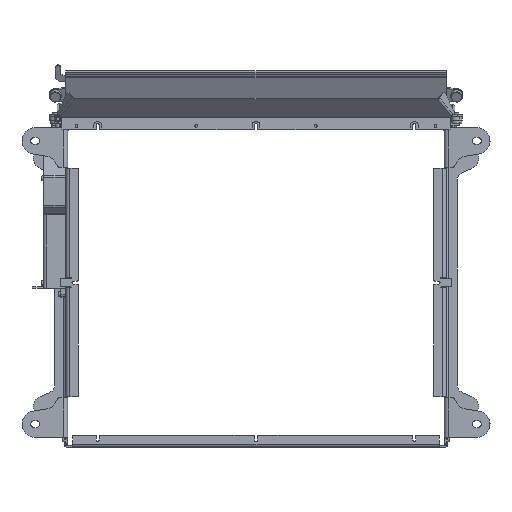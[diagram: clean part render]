
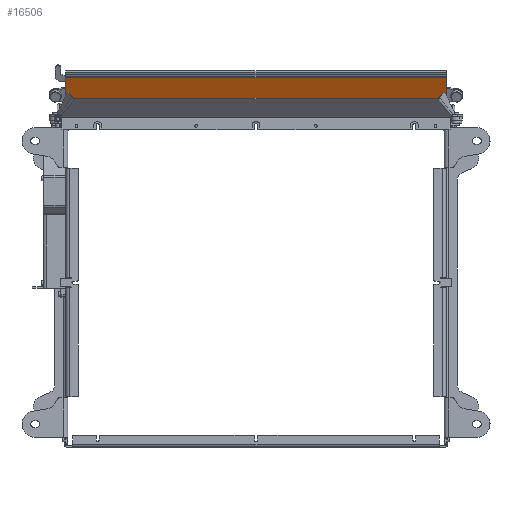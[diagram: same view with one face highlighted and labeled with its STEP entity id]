
A CAD part, front view. The second image highlights one B-rep face of the part: STEP entity #16506.
In plain terms, the highlighted planar face has unit normal (0, -0.882, -0.471).
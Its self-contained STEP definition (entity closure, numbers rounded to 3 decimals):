
#632 = VERTEX_POINT ( 'NONE', #20406 ) ;
#9290 = ORIENTED_EDGE ( 'NONE', *, *, #27370, .T. ) ;
#9419 = LINE ( 'NONE', #21199, #51790 ) ;
#10298 = DIRECTION ( 'NONE',  ( 0., 0.471, -0.882 ) ) ;
#11730 = DIRECTION ( 'NONE',  ( 1., 0., 0. ) ) ;
#13553 = VERTEX_POINT ( 'NONE', #56312 ) ;
#16506 = ADVANCED_FACE ( 'NONE', ( #57797 ), #48086, .T. ) ;
#16712 = EDGE_CURVE ( 'NONE', #13553, #57703, #43676, .T. ) ;
#16967 = CARTESIAN_POINT ( 'NONE',  ( 216.5, 57.824, 58.306 ) ) ;
#17174 = DIRECTION ( 'NONE',  ( -1., 0., 0. ) ) ;
#18802 = VECTOR ( 'NONE', #17174, 1000. ) ;
#20145 = EDGE_CURVE ( 'NONE', #23977, #632, #28489, .T. ) ;
#20406 = CARTESIAN_POINT ( 'NONE',  ( -216.5, 57.824, 58.306 ) ) ;
#21199 = CARTESIAN_POINT ( 'NONE',  ( 216.5, 55., 63.6 ) ) ;
#22152 = CARTESIAN_POINT ( 'NONE',  ( -216.5, 81.588, 13.747 ) ) ;
#23977 = VERTEX_POINT ( 'NONE', #16967 ) ;
#24477 = DIRECTION ( 'NONE',  ( -1., 0., 0. ) ) ;
#27370 = EDGE_CURVE ( 'NONE', #632, #13553, #51328, .T. ) ;
#28076 = ORIENTED_EDGE ( 'NONE', *, *, #16712, .T. ) ;
#28489 = LINE ( 'NONE', #35714, #18802 ) ;
#30009 = EDGE_LOOP ( 'NONE', ( #37228, #9290, #28076, #53088 ) ) ;
#31043 = VECTOR ( 'NONE', #11730, 1000. ) ;
#34301 = EDGE_CURVE ( 'NONE', #57703, #23977, #9419, .T. ) ;
#34849 = AXIS2_PLACEMENT_3D ( 'NONE', #52660, #57820, #24477 ) ;
#35621 = CARTESIAN_POINT ( 'NONE',  ( 216.5, 81.588, 13.747 ) ) ;
#35714 = CARTESIAN_POINT ( 'NONE',  ( 216.5, 57.824, 58.306 ) ) ;
#35787 = VECTOR ( 'NONE', #10298, 1000. ) ;
#37228 = ORIENTED_EDGE ( 'NONE', *, *, #20145, .T. ) ;
#43335 = CARTESIAN_POINT ( 'NONE',  ( -216.5, 55., 63.6 ) ) ;
#43676 = LINE ( 'NONE', #22152, #31043 ) ;
#45294 = DIRECTION ( 'NONE',  ( 0., -0.471, 0.882 ) ) ;
#48086 = PLANE ( 'NONE',  #34849 ) ;
#51328 = LINE ( 'NONE', #43335, #35787 ) ;
#51790 = VECTOR ( 'NONE', #45294, 1000. ) ;
#52660 = CARTESIAN_POINT ( 'NONE',  ( 0., 68.294, 38.674 ) ) ;
#53088 = ORIENTED_EDGE ( 'NONE', *, *, #34301, .T. ) ;
#56312 = CARTESIAN_POINT ( 'NONE',  ( -216.5, 81.588, 13.747 ) ) ;
#57703 = VERTEX_POINT ( 'NONE', #35621 ) ;
#57797 = FACE_OUTER_BOUND ( 'NONE', #30009, .T. ) ;
#57820 = DIRECTION ( 'NONE',  ( 0., -0.882, -0.471 ) ) ;
